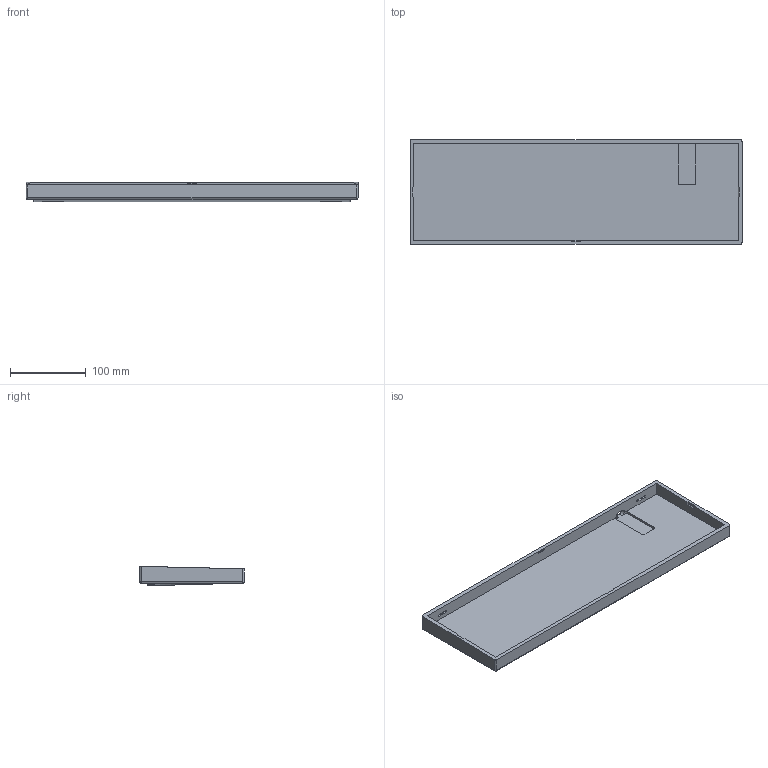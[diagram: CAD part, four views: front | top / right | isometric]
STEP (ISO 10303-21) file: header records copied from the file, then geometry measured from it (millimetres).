
FILE_DESCRIPTION(('STEP AP242 Edition 2','STEP AP242 Edition 2''CAx-IF Rec.Pracs.---Representation and Presentation of Product Manufacturing Information (PMI)---4.0---2014-10-13','STEP AP242 Edition 2''CAx-IF Rec.Pracs.---Representation and Presentation of Product Manufacturing Information (PMI)---4.0---2014-10-13''CAx-IF Rec.Pracs.---3D Tessellated Geometry---0.4---2014-09-14','STEP AP242 Edition 2''CAx-IF Rec.Pracs.---Representation and Presentation of Product Manufacturing Information (PMI)---4.0---2014-10-13''CAx-IF Rec.Pracs.---3D Tessellated Geometry---0.4---2014-09-14''2;1','STEP AP242 Edition 2''CAx-IF Rec.Pracs.---Representation and Presentation of Product Manufacturing Information (PMI)---4.0---2014-10-13''CAx-IF Rec.Pracs.---3D Tessellated Geometry---0.4---2014-09-14''2;1''CAx-IF Rec.Pracs.---User Defined Attributes---1.5---2016-08-15'),'2;1');
FILE_NAME('/vol/tmp/translate-job-12365391357250807974/translate-2322077590236900284/Enclosure - Border.step','2026-11-02T17:49:57',(''),(''),'ST-DEVELOPER v20','ONSHAPE BY PTC INC, 1.223',' ');
FILE_SCHEMA(('AP242_MANAGED_MODEL_BASED_3D_ENGINEERING_MIM_LF { 1 0 10303 442 3 1 4 }'));
Length unit declared in the file: inch
Products named in the file (1): Border
Bounding box: 438.79 x 138.05 x 25.54 mm (x, y, z)
Volume: 456123.2 mm3; surface area: 164587.5 mm2
Topology: 1 solids, 1 shells, 185 faces, 472 edges, 298 vertices
Faces by surface type: plane 107, cylinder 64, bspline 8, sphere 6
Full cylindrical faces by diameter (mm): 2.15 x4
Entity records: 6219 total; most frequent: CARTESIAN_POINT 1088, DIRECTION 1017, ORIENTED_EDGE 916, EDGE_CURVE 458, AXIS2_PLACEMENT_3D 349, LINE 319, VECTOR 319, VERTEX_POINT 294
